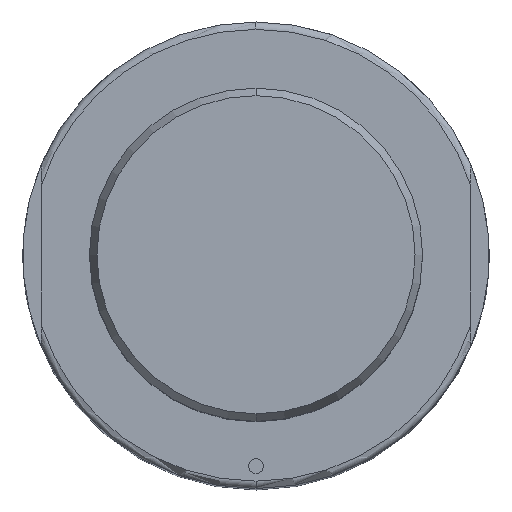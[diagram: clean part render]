
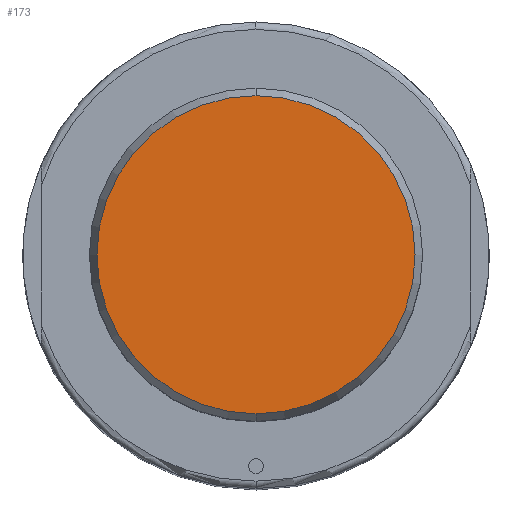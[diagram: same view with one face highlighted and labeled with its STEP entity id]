
A CAD part, top view. The second image highlights one B-rep face of the part: STEP entity #173.
In plain terms, the highlighted planar face has unit normal (0, 0, 1).
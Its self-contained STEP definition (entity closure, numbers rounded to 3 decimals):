
#124=PLANE('',#990);
#173=ADVANCED_FACE('',(#244),#124,.T.);
#244=FACE_OUTER_BOUND('',#297,.T.);
#297=EDGE_LOOP('',(#457,#458));
#364=CIRCLE('',#975,21.481);
#365=CIRCLE('',#977,21.481);
#457=ORIENTED_EDGE('',*,*,#758,.F.);
#458=ORIENTED_EDGE('',*,*,#759,.F.);
#677=VERTEX_POINT('',#1413);
#680=VERTEX_POINT('',#1418);
#758=EDGE_CURVE('',#680,#677,#364,.T.);
#759=EDGE_CURVE('',#677,#680,#365,.T.);
#975=AXIS2_PLACEMENT_3D('',#1419,#1109,#1110);
#977=AXIS2_PLACEMENT_3D('',#1421,#1113,#1114);
#990=AXIS2_PLACEMENT_3D('',#1444,#1143,#1144);
#1109=DIRECTION('',(0.,0.,-1.));
#1110=DIRECTION('',(-1.,0.,0.));
#1113=DIRECTION('',(0.,0.,-1.));
#1114=DIRECTION('',(1.,0.,0.));
#1143=DIRECTION('',(0.,0.,1.));
#1144=DIRECTION('',(0.,-1.,0.));
#1413=CARTESIAN_POINT('',(0.,-21.481,155.));
#1418=CARTESIAN_POINT('',(0.,21.481,155.));
#1419=CARTESIAN_POINT('',(0.,0.,155.));
#1421=CARTESIAN_POINT('',(0.,0.,155.));
#1444=CARTESIAN_POINT('',(0.,0.,155.));
